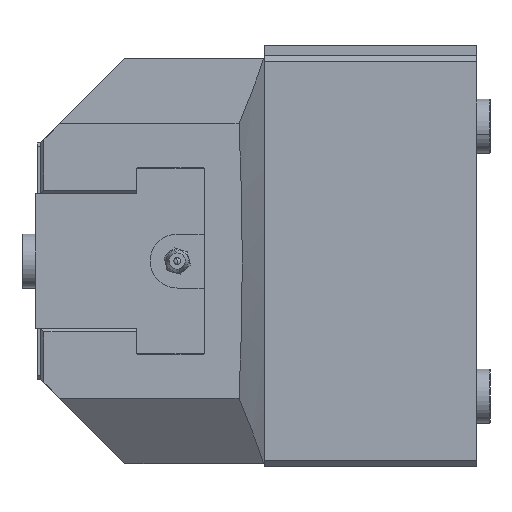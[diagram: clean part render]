
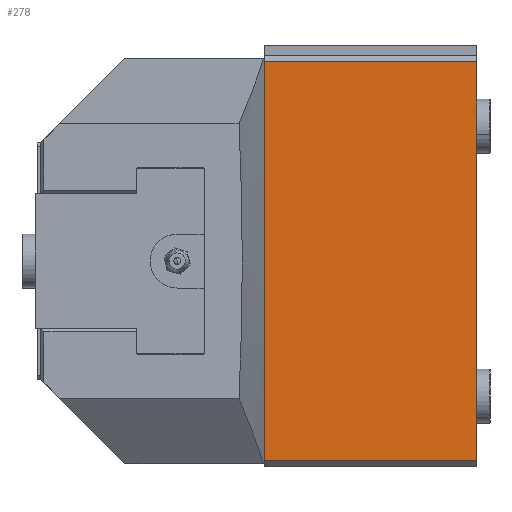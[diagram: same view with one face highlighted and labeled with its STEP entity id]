
A CAD part, left-side view. The second image highlights one B-rep face of the part: STEP entity #278.
In plain terms, the highlighted planar face has unit normal (-1, 0, 0).
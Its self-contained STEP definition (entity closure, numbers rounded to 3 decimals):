
#278 = ADVANCED_FACE ( 'NONE', ( #5840 ), #9218, .F. ) ;
#1164 = CARTESIAN_POINT ( 'NONE',  ( -93., 62.9, 64. ) ) ;
#1514 = LINE ( 'NONE', #14947, #11535 ) ;
#1951 = CARTESIAN_POINT ( 'NONE',  ( -93., 0., -59. ) ) ;
#2392 = DIRECTION ( 'NONE',  ( 0., 0., 1. ) ) ;
#2636 = EDGE_CURVE ( 'NONE', #17197, #14240, #9006, .T. ) ;
#2655 = EDGE_CURVE ( 'NONE', #9411, #4646, #1514, .T. ) ;
#4326 = AXIS2_PLACEMENT_3D ( 'NONE', #17898, #4819, #17631 ) ;
#4646 = VERTEX_POINT ( 'NONE', #1951 ) ;
#4733 = CARTESIAN_POINT ( 'NONE',  ( -93., 62.9, -59. ) ) ;
#4819 = DIRECTION ( 'NONE',  ( 1., 0., 0. ) ) ;
#5400 = ORIENTED_EDGE ( 'NONE', *, *, #17986, .F. ) ;
#5685 = EDGE_CURVE ( 'NONE', #4646, #17197, #12491, .T. ) ;
#5840 = FACE_OUTER_BOUND ( 'NONE', #16421, .T. ) ;
#6428 = CARTESIAN_POINT ( 'NONE',  ( -93., 62.9, 59. ) ) ;
#8308 = ORIENTED_EDGE ( 'NONE', *, *, #2655, .T. ) ;
#8555 = CARTESIAN_POINT ( 'NONE',  ( -93., 0., 64. ) ) ;
#8911 = VECTOR ( 'NONE', #11179, 1000. ) ;
#8912 = DIRECTION ( 'NONE',  ( 0., 1., 0. ) ) ;
#9006 = LINE ( 'NONE', #6428, #16649 ) ;
#9218 = PLANE ( 'NONE',  #4326 ) ;
#9308 = CARTESIAN_POINT ( 'NONE',  ( -93., 62.9, 59. ) ) ;
#9411 = VERTEX_POINT ( 'NONE', #4733 ) ;
#9681 = LINE ( 'NONE', #1164, #15621 ) ;
#11179 = DIRECTION ( 'NONE',  ( 0., 0., 1. ) ) ;
#11535 = VECTOR ( 'NONE', #12135, 1000. ) ;
#12135 = DIRECTION ( 'NONE',  ( 0., -1., 0. ) ) ;
#12491 = LINE ( 'NONE', #8555, #8911 ) ;
#12888 = CARTESIAN_POINT ( 'NONE',  ( -93., 0., 59. ) ) ;
#14240 = VERTEX_POINT ( 'NONE', #9308 ) ;
#14786 = ORIENTED_EDGE ( 'NONE', *, *, #2636, .T. ) ;
#14947 = CARTESIAN_POINT ( 'NONE',  ( -93., 62.9, -59. ) ) ;
#15621 = VECTOR ( 'NONE', #2392, 1000. ) ;
#16421 = EDGE_LOOP ( 'NONE', ( #17790, #14786, #5400, #8308 ) ) ;
#16649 = VECTOR ( 'NONE', #8912, 1000. ) ;
#17197 = VERTEX_POINT ( 'NONE', #12888 ) ;
#17631 = DIRECTION ( 'NONE',  ( 0., 0., -1. ) ) ;
#17790 = ORIENTED_EDGE ( 'NONE', *, *, #5685, .T. ) ;
#17898 = CARTESIAN_POINT ( 'NONE',  ( -93., 62.9, 64. ) ) ;
#17986 = EDGE_CURVE ( 'NONE', #9411, #14240, #9681, .T. ) ;
